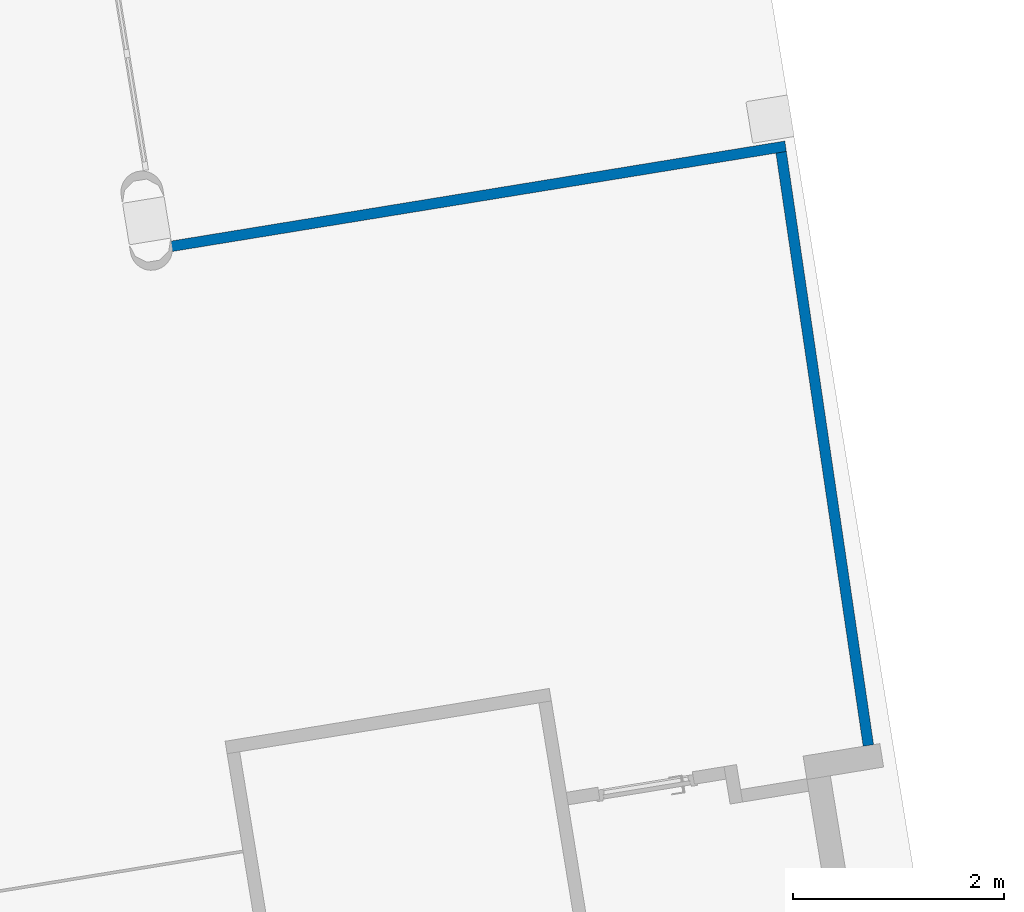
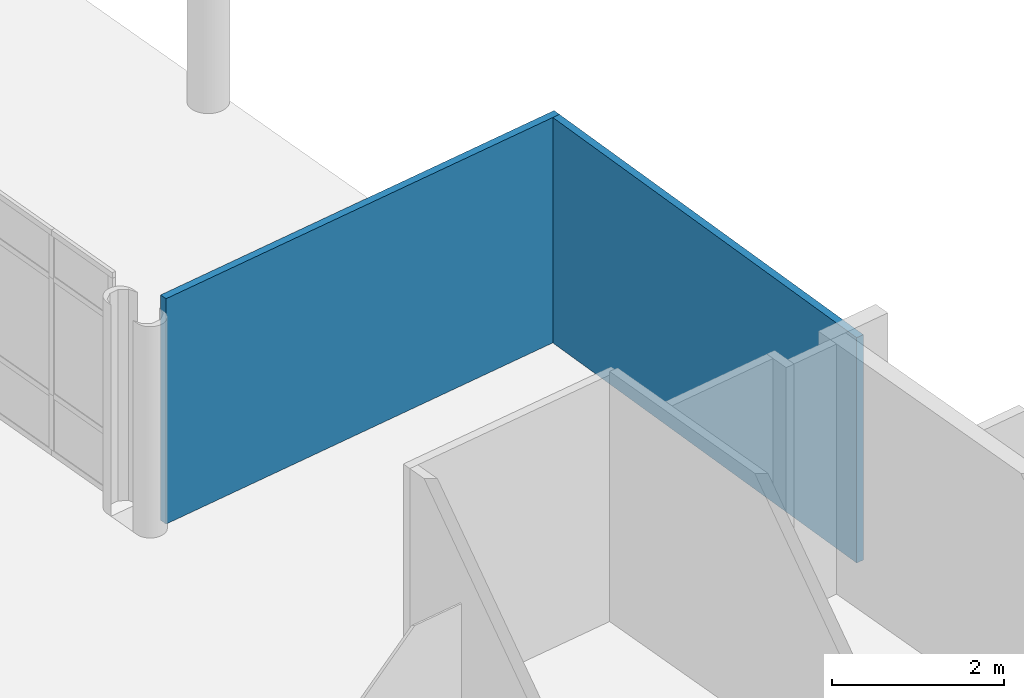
# One storey, part 13 of 18: 2 walls.
"""IFC2X3 building model written with IfcOpenShell, lengths in millimetres."""

from ifc_helpers import new_model, entity, si_unit, converted_unit, derived_unit, direction, frame, origin, origin_with_axes, place, context, subcontext, project, spatial, polyline, outline, extrude, material, layer, layer_set, layer_usage, type_object, element, save


model = new_model("IFC2X3")

# Units and contexts
model_context = context("Model", 3, precision=0.01, world=origin(), true_north=direction((6.12323399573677e-17, 1.0)))
plan_context = context("Plan", 3, precision=1e-05, world=origin_with_axes())
body_context = subcontext(model_context, "Body", "Model", "MODEL_VIEW")
ifc_project = project(units=[converted_unit("PLANEANGLEUNIT", "DEGREE", entity("IfcPositiveLengthMeasure", 0.0174532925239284), si_unit("PLANEANGLEUNIT", "RADIAN"), dimensions=[0, 0, 0, 0, 0, 0, 0]), si_unit("AREAUNIT", "SQUARE_METRE"), si_unit("LENGTHUNIT", "METRE", prefix="MILLI"), si_unit("MASSUNIT", "GRAM", prefix="KILO"), si_unit("POWERUNIT", "WATT"), si_unit("PRESSUREUNIT", "PASCAL", prefix="KILO"), si_unit("FORCEUNIT", "NEWTON", prefix="KILO"), si_unit("ELECTRICVOLTAGEUNIT", "VOLT"), si_unit("ELECTRICCURRENTUNIT", "AMPERE"), si_unit("THERMODYNAMICTEMPERATUREUNIT", "DEGREE_CELSIUS"), si_unit("TIMEUNIT", "SECOND"), si_unit("VOLUMEUNIT", "CUBIC_METRE"), derived_unit("LINEARVELOCITYUNIT", [(si_unit("LENGTHUNIT", "METRE"), 1), (si_unit("TIMEUNIT", "SECOND"), -1)]), derived_unit("VOLUMETRICFLOWRATEUNIT", [(si_unit("VOLUMEUNIT", "CUBIC_METRE"), 1), (si_unit("TIMEUNIT", "SECOND"), -1)]), derived_unit("THERMALTRANSMITTANCEUNIT", [(si_unit("POWERUNIT", "WATT"), 1), (si_unit("THERMODYNAMICTEMPERATUREUNIT", "KELVIN"), -1), (si_unit("AREAUNIT", "SQUARE_METRE"), -1)]), derived_unit("SOUNDPRESSUREUNIT", [(si_unit("PRESSUREUNIT", "PASCAL"), 1)])], contexts=[model_context, plan_context])

# Site, building, storey
site_placement = place(None, frame((-305029.896016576, -232111.759730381, 0.0), z_axis=(0.0, 0.0, 1.0), x_axis=(-0.160806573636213, 0.986985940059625, 0.0)))
site = spatial("IfcSite", under=ifc_project, at=site_placement, Name="Default", CompositionType="ELEMENT")
building_placement = place(site_placement, frame((0.0, 0.0, 0.0), z_axis=(0.0, 0.0, 1.0), x_axis=(1.0, -2.77555756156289e-17, 0.0)))
building = spatial("IfcBuilding", under=site, at=building_placement, Name="br001-a-200-1-0001", CompositionType="ELEMENT")
storey_placement = place(building_placement, frame((0.0, 0.0, 55500.0), z_axis=(0.0, 0.0, 1.0), x_axis=(1.0, -2.77555756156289e-17, 0.0)))
storey = spatial("IfcBuildingStorey", under=building, at=storey_placement, Name="H02-Nivå F-3,5 m", CompositionType="ELEMENT", Elevation=55500.0)

# Walls
ifc_material = material(Name="_NSW Standard")
ifc_layer = layer(ifc_material, 100.0)
ifc_layer_set = layer_set([ifc_layer], Name="Basic Wall:A242 - Standard 100")
ifc_layer_usage_1 = layer_usage(ifc_layer_set, "AXIS2", "NEGATIVE", 50.0)
wall_type = type_object("IfcWallType", Name="Basic Wall:A242 - Standard 100", PredefinedType="STANDARD", material=ifc_layer_set)
wall_1_placement = place(storey_placement, frame((1184400.45239912, -728960.312726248, 0.0), z_axis=(0.0, 0.0, 1.0), x_axis=(-2.77555756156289e-17, -1.0, 0.0)))
element("IfcWallStandardCase", 1, at=wall_1_placement, inside=storey, type_object=wall_type, material=ifc_layer_usage_1, Name="Basic Wall:A242 - Standard 100", ObjectType="Basic Wall:A242 - Standard 100", context=body_context, shape_type="SweptSolid", body=[
    extrude(outline(polyline([(5908.98507708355, -50.0), (5910.53500524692, 50.0), (0.0, 50.0), (0.0, -50.0), (5808.97306641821, -50.0), (5908.98507708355, -50.0)])), origin(), (0.0, 0.0, 1.0), 3200.0),
])
ifc_layer_usage_2 = layer_usage(ifc_layer_set, "AXIS2", "NEGATIVE", 50.0)
wall_2_placement = place(storey_placement, frame((1184351.22727013, -734819.303807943, 0.0), z_axis=(0.0, 0.0, 1.0), x_axis=(-0.999879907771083, 0.0154974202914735, 0.0)))
element("IfcWallStandardCase", 2, at=wall_2_placement, inside=storey, type_object=wall_type, material=ifc_layer_usage_2, Name="Basic Wall:A242 - Standard 100", ObjectType="Basic Wall:A242 - Standard 100", context=body_context, shape_type="SweptSolid", body=[
    extrude(outline(polyline([(5696.03786458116, -50.0), (5696.03786458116, 50.0), (0.0, 50.0), (1.5499281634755, -50.0), (5696.03786458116, -50.0)])), origin(), (0.0, 0.0, 1.0), 3200.0),
])

save(model, "model.ifc")
